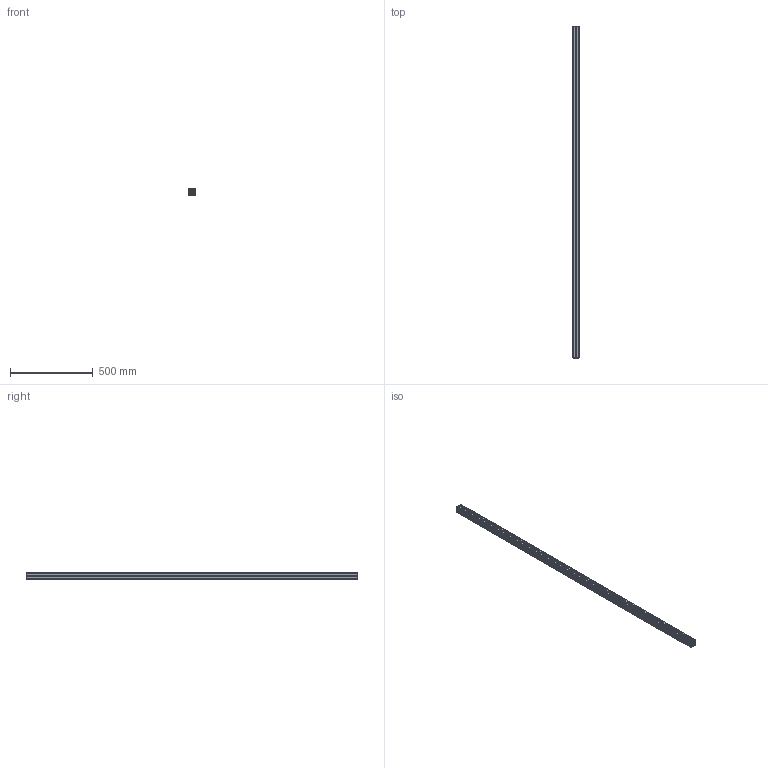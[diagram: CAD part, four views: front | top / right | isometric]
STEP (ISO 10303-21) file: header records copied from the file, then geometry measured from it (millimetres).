
FILE_DESCRIPTION (( 'STEP AP214' ), '1' );
FILE_NAME ('PEP4040-2000.STEP', '2019-10-30T01:35:29', ( '微软用户' ), ( '微软中国' ), 'SwSTEP 2.0', 'SolidWorks 2016', '' );
FILE_SCHEMA (( 'AUTOMOTIVE_DESIGN' ));
Length unit declared in the file: millimetre
Products named in the file (1): PEP4040-2000
Bounding box: 40 x 2000 x 40 mm (x, y, z)
Volume: 1180591.2 mm3; surface area: 1225166.6 mm2
Topology: 1 solids, 1 shells, 248 faces, 738 edges, 492 vertices
Faces by surface type: plane 130, cylinder 118
Entity records: 11176 total; most frequent: CARTESIAN_POINT 1479, ORIENTED_EDGE 1476, DIRECTION 1472, EDGE_CURVE 738, VECTOR 502, LINE 502, VERTEX_POINT 492, AXIS2_PLACEMENT_3D 485
